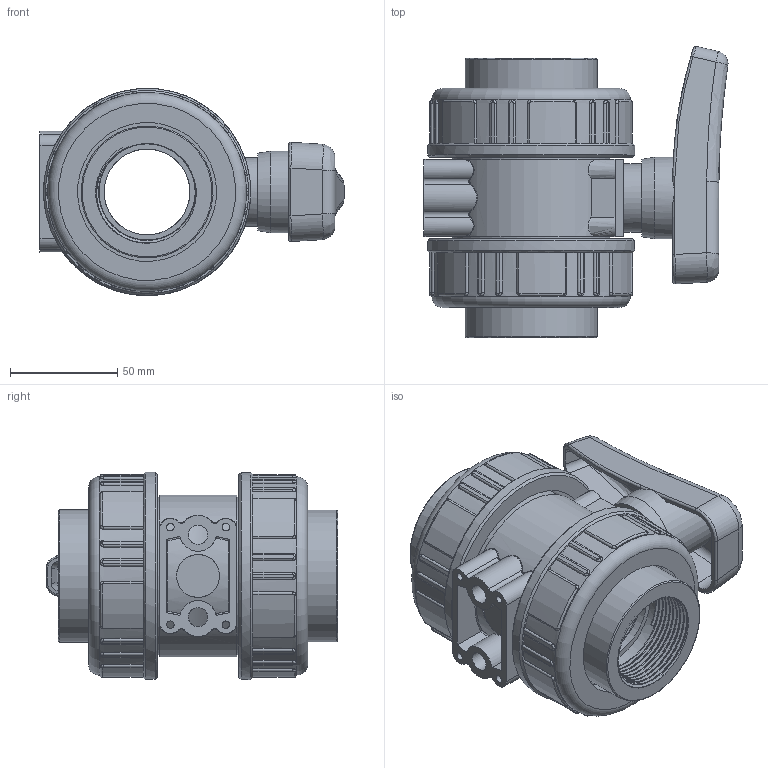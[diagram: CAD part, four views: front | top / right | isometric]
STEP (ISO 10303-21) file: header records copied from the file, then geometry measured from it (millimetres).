
FILE_DESCRIPTION(/* description */ (''),/* implementation_level */ '2;1');
FILE_NAME(/* name */ 'C:\Users\POLYPIPE\Desktop\DATASET INVENTOR\LIBRERIA EFFAST\3D_VALVOLE\3D_VALVOLE A SFERA\3D_BK1\3D_BHPBK1EH\3D_BHPBK1EH050F.stp',/* time_stamp */ '2018-01-25T17:27:40+01:00',/* author */ ('POLYPIPE'),/* organization */ (''),/* preprocessor_version */ 'ST-DEVELOPER v16.1',/* originating_system */ 'Autodesk Inventor 2016',/* authorisation */ '');
FILE_SCHEMA (('CONFIG_CONTROL_DESIGN'));
Products named in the file (1): 3D_BHPBK1EH050F
Bounding box: 141.54 x 135.66 x 96.45 mm (x, y, z)
Volume: 551379.1 mm3; surface area: 143699.2 mm2
Topology: 3 solids, 3 shells, 630 faces, 1545 edges, 950 vertices
Faces by surface type: cylinder 209, plane 203, bspline 189, torus 20, cone 5, sphere 4
Full cylindrical faces by diameter (mm): 3.1 x4, 3.5 x4, 9 x2, 20 x1, 31.8 x1, 38 x1, 39.9 x1, 40 x2, 44.6 x1, 44.845 x2, 55.6 x1, 60.9 x1, 61.5 x2, 64.7 x2, 72 x2, 73.3 x2, 78.5 x2, 92.5 x2, 96.5 x2
Entity records: 70524 total; most frequent: CARTESIAN_POINT 56130, ORIENTED_EDGE 2958, DIRECTION 2595, EDGE_CURVE 1479, AXIS2_PLACEMENT_3D 1000, VERTEX_POINT 928, EDGE_LOOP 711, STYLED_ITEM 633
